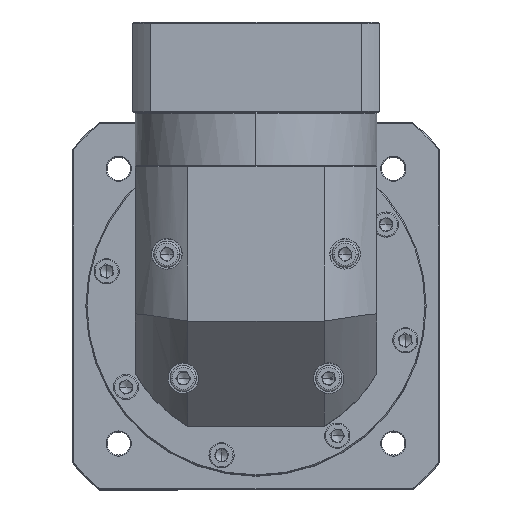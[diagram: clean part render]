
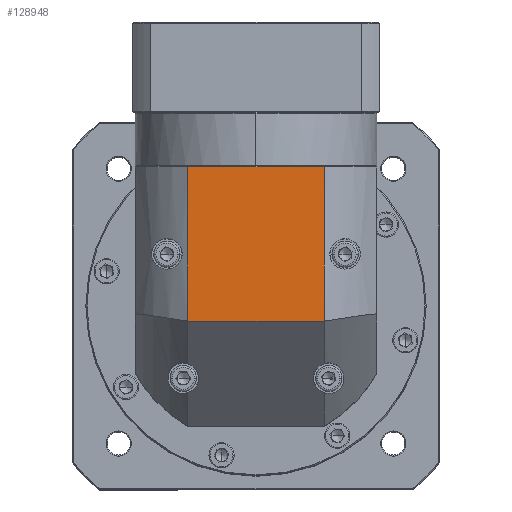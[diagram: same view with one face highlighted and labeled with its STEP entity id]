
A CAD part, top view. The second image highlights one B-rep face of the part: STEP entity #128948.
In plain terms, the highlighted planar face has unit normal (0, 0, 1).
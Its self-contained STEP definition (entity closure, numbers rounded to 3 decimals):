
#11209 = EDGE_LOOP ( 'NONE', ( #130299, #73795, #137698, #113445 ) ) ;
#12039 = DIRECTION ( 'NONE',  ( 0., 0., -1. ) ) ;
#13949 = VECTOR ( 'NONE', #102804, 1000. ) ;
#25837 = EDGE_CURVE ( 'NONE', #138852, #65755, #60308, .T. ) ;
#27537 = LINE ( 'NONE', #43291, #117715 ) ;
#34925 = DIRECTION ( 'NONE',  ( 1., 0., 0. ) ) ;
#42207 = CARTESIAN_POINT ( 'NONE',  ( -163.404, 164.019, 50.928 ) ) ;
#43256 = CARTESIAN_POINT ( 'NONE',  ( -163.404, 40.619, 50.928 ) ) ;
#43291 = CARTESIAN_POINT ( 'NONE',  ( -188.504, 164.019, 50.928 ) ) ;
#44034 = AXIS2_PLACEMENT_3D ( 'NONE', #90162, #12039, #34925 ) ;
#50266 = FACE_OUTER_BOUND ( 'NONE', #11209, .T. ) ;
#50300 = CARTESIAN_POINT ( 'NONE',  ( -98.604, 40.619, 50.928 ) ) ;
#50358 = LINE ( 'NONE', #50300, #95471 ) ;
#51091 = EDGE_CURVE ( 'NONE', #65755, #129007, #27537, .T. ) ;
#57182 = CARTESIAN_POINT ( 'NONE',  ( -98.604, 164.019, 50.928 ) ) ;
#58210 = DIRECTION ( 'NONE',  ( 0., 1., 0. ) ) ;
#60308 = LINE ( 'NONE', #43256, #115819 ) ;
#65755 = VERTEX_POINT ( 'NONE', #42207 ) ;
#71885 = CARTESIAN_POINT ( 'NONE',  ( -163.404, 90.619, 50.928 ) ) ;
#73795 = ORIENTED_EDGE ( 'NONE', *, *, #100016, .F. ) ;
#74508 = DIRECTION ( 'NONE',  ( 0., -1., 0. ) ) ;
#78544 = PLANE ( 'NONE',  #44034 ) ;
#90162 = CARTESIAN_POINT ( 'NONE',  ( -131.004, 98.119, 50.928 ) ) ;
#91585 = CARTESIAN_POINT ( 'NONE',  ( -188.504, 90.619, 50.928 ) ) ;
#95471 = VECTOR ( 'NONE', #74508, 1000. ) ;
#100016 = EDGE_CURVE ( 'NONE', #101780, #138852, #140706, .T. ) ;
#101780 = VERTEX_POINT ( 'NONE', #109667 ) ;
#102804 = DIRECTION ( 'NONE',  ( -1., 0., 0. ) ) ;
#109667 = CARTESIAN_POINT ( 'NONE',  ( -98.604, 90.619, 50.928 ) ) ;
#113445 = ORIENTED_EDGE ( 'NONE', *, *, #51091, .F. ) ;
#115819 = VECTOR ( 'NONE', #58210, 1000. ) ;
#117715 = VECTOR ( 'NONE', #136864, 1000. ) ;
#119023 = EDGE_CURVE ( 'NONE', #129007, #101780, #50358, .T. ) ;
#128948 = ADVANCED_FACE ( 'NONE', ( #50266 ), #78544, .F. ) ;
#129007 = VERTEX_POINT ( 'NONE', #57182 ) ;
#130299 = ORIENTED_EDGE ( 'NONE', *, *, #25837, .F. ) ;
#136864 = DIRECTION ( 'NONE',  ( 1., 0., 0. ) ) ;
#137698 = ORIENTED_EDGE ( 'NONE', *, *, #119023, .F. ) ;
#138852 = VERTEX_POINT ( 'NONE', #71885 ) ;
#140706 = LINE ( 'NONE', #91585, #13949 ) ;
